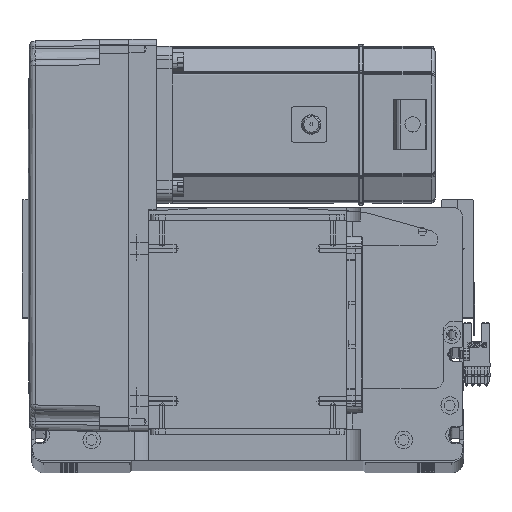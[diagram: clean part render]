
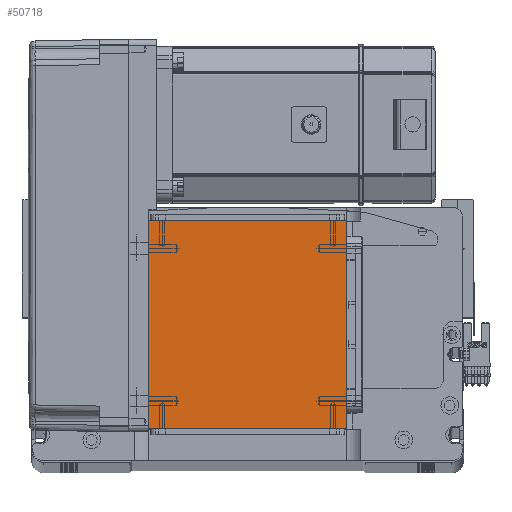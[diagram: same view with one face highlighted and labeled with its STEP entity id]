
A CAD part, top view. The second image highlights one B-rep face of the part: STEP entity #50718.
In plain terms, the highlighted planar face has unit normal (0, 0, 1).
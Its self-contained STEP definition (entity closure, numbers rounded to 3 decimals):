
#29 = EDGE_LOOP ( 'NONE', ( #56921, #41910, #21266, #28808 ) ) ;
#92 = CARTESIAN_POINT ( 'NONE',  ( 0., 0., 115. ) ) ;
#3014 = CARTESIAN_POINT ( 'NONE',  ( -50.5, 122., 115. ) ) ;
#3977 = LINE ( 'NONE', #49912, #25995 ) ;
#5022 = CARTESIAN_POINT ( 'NONE',  ( -50.5, 16., 115. ) ) ;
#5600 = VECTOR ( 'NONE', #57668, 1000. ) ;
#6575 = DIRECTION ( 'NONE',  ( 1., 0., 0. ) ) ;
#7790 = CARTESIAN_POINT ( 'NONE',  ( -50.5, 122., 115. ) ) ;
#9170 = VECTOR ( 'NONE', #6575, 1000. ) ;
#9611 = PLANE ( 'NONE',  #17238 ) ;
#17238 = AXIS2_PLACEMENT_3D ( 'NONE', #92, #31849, #41407 ) ;
#18368 = LINE ( 'NONE', #7790, #5600 ) ;
#20594 = EDGE_CURVE ( 'NONE', #38348, #30229, #18368, .T. ) ;
#20909 = LINE ( 'NONE', #31114, #48661 ) ;
#21216 = LINE ( 'NONE', #48344, #9170 ) ;
#21266 = ORIENTED_EDGE ( 'NONE', *, *, #51407, .T. ) ;
#21431 = CARTESIAN_POINT ( 'NONE',  ( 50.5, 16., 115. ) ) ;
#22689 = DIRECTION ( 'NONE',  ( -1., 0., 0. ) ) ;
#25995 = VECTOR ( 'NONE', #22689, 1000. ) ;
#28808 = ORIENTED_EDGE ( 'NONE', *, *, #50572, .T. ) ;
#30229 = VERTEX_POINT ( 'NONE', #5022 ) ;
#31114 = CARTESIAN_POINT ( 'NONE',  ( 50.5, 122., 115. ) ) ;
#31849 = DIRECTION ( 'NONE',  ( 0., 0., 1. ) ) ;
#34862 = CARTESIAN_POINT ( 'NONE',  ( 50.5, 122., 115. ) ) ;
#38348 = VERTEX_POINT ( 'NONE', #3014 ) ;
#38368 = EDGE_CURVE ( 'NONE', #30229, #51035, #21216, .T. ) ;
#41407 = DIRECTION ( 'NONE',  ( 1., 0., 0. ) ) ;
#41910 = ORIENTED_EDGE ( 'NONE', *, *, #38368, .T. ) ;
#46442 = VERTEX_POINT ( 'NONE', #34862 ) ;
#48344 = CARTESIAN_POINT ( 'NONE',  ( -50.5, 16., 115. ) ) ;
#48661 = VECTOR ( 'NONE', #57767, 1000. ) ;
#49912 = CARTESIAN_POINT ( 'NONE',  ( -50.5, 122., 115. ) ) ;
#50572 = EDGE_CURVE ( 'NONE', #46442, #38348, #3977, .T. ) ;
#50718 = ADVANCED_FACE ( 'NONE', ( #52308 ), #9611, .T. ) ;
#51035 = VERTEX_POINT ( 'NONE', #21431 ) ;
#51407 = EDGE_CURVE ( 'NONE', #51035, #46442, #20909, .T. ) ;
#52308 = FACE_OUTER_BOUND ( 'NONE', #29, .T. ) ;
#56921 = ORIENTED_EDGE ( 'NONE', *, *, #20594, .T. ) ;
#57668 = DIRECTION ( 'NONE',  ( 0., -1., 0. ) ) ;
#57767 = DIRECTION ( 'NONE',  ( 0., 1., 0. ) ) ;
